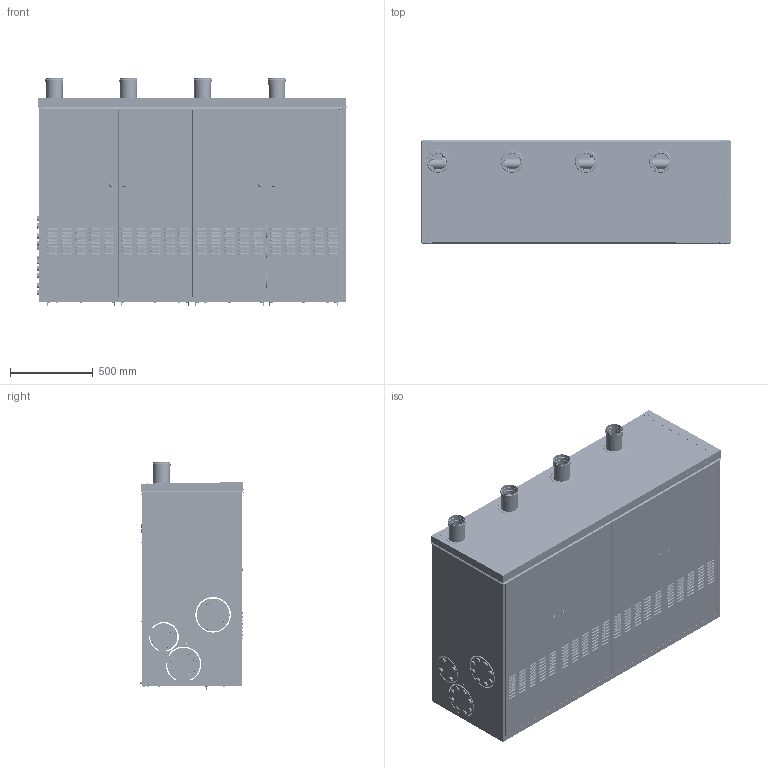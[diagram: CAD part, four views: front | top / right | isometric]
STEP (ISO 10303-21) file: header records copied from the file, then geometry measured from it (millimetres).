
FILE_DESCRIPTION(/* description */ ('Unknown'),/* implementation_level */ '2;1');
FILE_NAME(/* name */ '41011577',/* time_stamp */ '2018-05-28T12:00:31+02:00',/* author */ ('Unknown'),/* organization */ ('Unknown'),/* preprocessor_version */ 'ST-DEVELOPER v16.7',/* originating_system */ 'DEX',/* authorisation */ $);
FILE_SCHEMA (('AUTOMOTIVE_DESIGN {1 0 10303 214 3 1 1}'));
Products named in the file (157): 41011577-00000; 85010243-00001_oa_0; 00212397; 00212388; inserto_M8_H=21_aperto; RON0600C; 16158; DAD0400C; VIM0024; 27673; 00261158; 00220477-00000; 00260425; MOL0600C; VIT0270C; PRN0120C; 00220475-00000; CT17003_30-13; CT17003_30-14; inserto_ESAG_M6_aperto; CT17003_30-15; CT17003_30-16; CT17003_30-17; VIM0044; 00221463; 00221463-00000; 00221463_01; 00221463_491_556_Saldatura d'angolo 4_oa_1; 00221463_491_556_Saldatura d'angolo 4_oa_2; 00221463_491_556_Saldatura d'angolo 4_oa_3; 00221463_491_556_Saldatura d'angolo 4_oa_4; 89011028-00000_oa_5; 00362387; 86010649-00000_oa_6; 00285399-00000; CT17003_33_01_oa_7; CT17003_33_02_oa_8; 24488; 33534; 00285399-00000_363_1,027_Saldatura d'angolo 11_oa_9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
Assembly tree (623 placements, depth 5):
  41011577-00000
    85010243-00001_oa_0
      00212397  x4
      00212388  x4
        00212388
        inserto_M8_H=21_aperto
      RON0600C  x40
      16158  x8
      DAD0400C  x20
      VIM0024  x8
      27673  x4
      00261158  x26
      00220477-00000
      00260425  x26
      MOL0600C  x4
      VIT0270C  x8
      PRN0120C  x5
      00220475-00000
        CT17003_30-13  x4
        CT17003_30-14  x5
        inserto_ESAG_M6_aperto  x26
        CT17003_30-15  x8
        CT17003_30-16  x4
        CT17003_30-17  x4
      VIM0044  x8
      00221463  x2
        00221463-00000
        00221463_01
    89011028-00000_oa_5
      00362387  x4
    86010649-00000_oa_6
      00285399-00000
        CT17003_33_01_oa_7
          CT17003_33_02_oa_8
        24488
        33534  x4
        00213034  x4
        VER0010
        00262634
        00262632_oa_15
        MNT0040-00002  x2
        25662 
      00285401-00000
        CT17003_34_01_oa_20
          CT17003_34_02_oa_21
        24488
        33534  x4
        00213035  x4
        VER0010
        00262634
        00262632_oa_27
        MNT0040-00002
      00285403-00000
        CT17003_35_01
          CT17003_35_02_oa_31
        TRC0239  x4
        00213033  x4
        24486 
        25662 
        VER0010
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Bounding box: 1882.45 x 630.47 x 1377 mm (x, y, z)
Volume: 25655024.5 mm3; surface area: 30431485.4 mm2
Topology: 688 solids, 688 shells, 12147 faces, 30295 edges, 20020 vertices
Faces by surface type: plane 7874, cylinder 2403, bspline 830, torus 500, cone 412, sphere 128
Full cylindrical faces by diameter (mm): 2 x34, 2.459 x4, 3 x24, 3.242 x36, 3.5 x30, 3.78 x8, 3.8 x4, 4 x4, 4.134 x26, 4.2 x77, 4.282 x8, 4.5 x4, 4.8 x69, 4.917 x60, 5 x87, 5.3 x44, 5.5 x12, 6 x49, 6.4 x16, 6.5 x30, 6.647 x11, 7 x90, 7.5 x16, 8 x177, 8.2 x6, 8.376 x8, 8.4 x40, 8.5 x122, 8.566 x2, 9 x60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
Entity records: 141264 total; most frequent: CARTESIAN_POINT 52317, ORIENTED_EDGE 15788, DIRECTION 15429, EDGE_CURVE 7894, VERTEX_POINT 5492, AXIS2_PLACEMENT_3D 5293, FACE_BOUND 5118, EDGE_LOOP 5111
